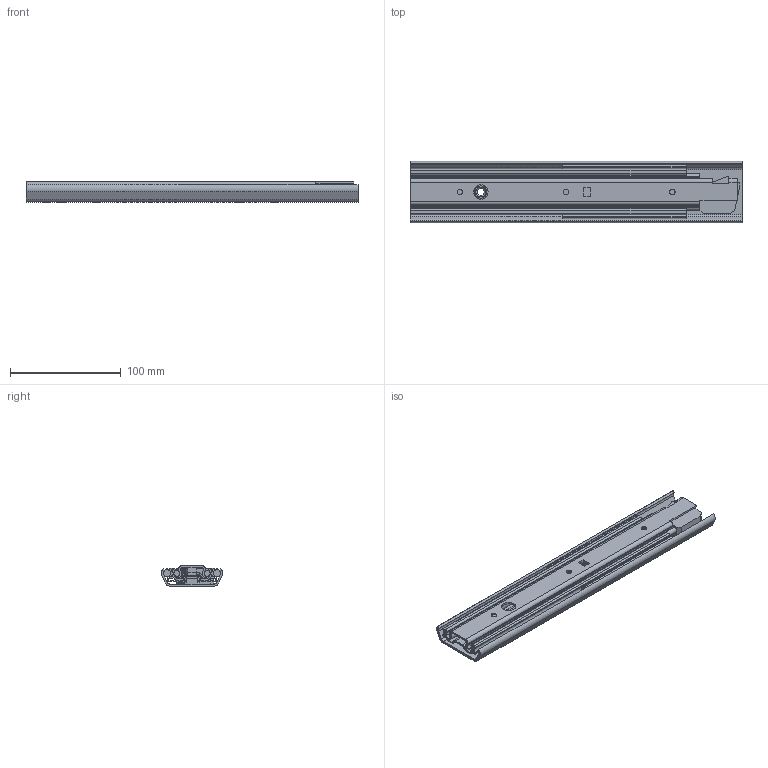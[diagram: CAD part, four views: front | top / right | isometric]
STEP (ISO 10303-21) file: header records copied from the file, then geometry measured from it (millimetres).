
FILE_DESCRIPTION( ( 'STEP AP203' ), '1' );
FILE_NAME( 'C:/Temp/Ganter_Step_05_03_2020/data/3_8/gn1422/Telescopic slide GN 1422-300-B-2-ZB (0).stp', '2020-03-12T15:26:01', ( 'License CC BY-ND 4.0' ), ( 'CADENAS' ), ' ', 'PARTsolutions', ' ' );
FILE_SCHEMA( ( 'CONFIG_CONTROL_DESIGN' ) );
Length unit declared in the file: millimetre
Products named in the file (4): Telescopic slide GN 1422-300-B-2-ZB (0); _Telescopic slide GN 1422-300-B-2-ZB (0)-1; _Telescopic slide GN 1422-300-B-2-ZB (0)-2; _Telescopic slide GN 1422-300-B-2-ZB (0)-3
Assembly tree (3 placements, depth 2):
  Telescopic slide GN 1422-300-B-2-ZB (0)
    _Telescopic slide GN 1422-300-B-2-ZB (0)-1
    _Telescopic slide GN 1422-300-B-2-ZB (0)-2
    _Telescopic slide GN 1422-300-B-2-ZB (0)-3
Bounding box: 300 x 55.78 x 18.5 mm (x, y, z)
Volume: 123348.5 mm3; surface area: 126645.9 mm2
Topology: 3 solids, 3 shells, 318 faces, 930 edges, 611 vertices
Faces by surface type: plane 188, cylinder 123, cone 7
Full cylindrical faces by diameter (mm): 5 x3, 6.5 x4, 11 x2, 13 x1
Entity records: 10712 total; most frequent: CARTESIAN_POINT 1922, ORIENTED_EDGE 1822, DIRECTION 1811, EDGE_CURVE 911, LINE 639, VECTOR 639, VERTEX_POINT 609, AXIS2_PLACEMENT_3D 586
